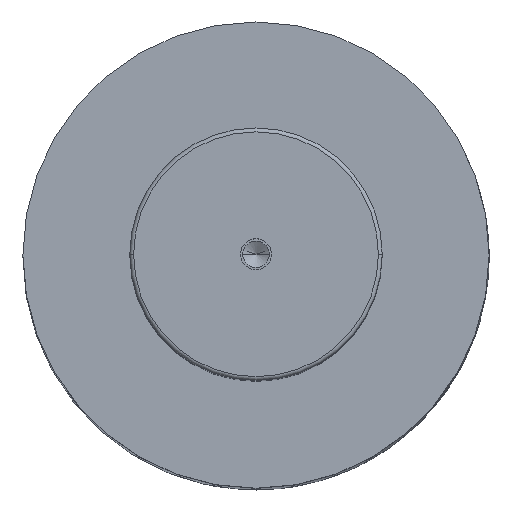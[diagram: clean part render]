
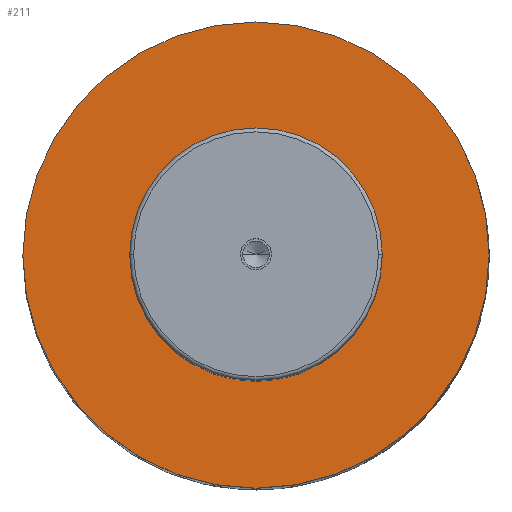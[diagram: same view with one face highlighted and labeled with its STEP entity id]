
A CAD part, top view. The second image highlights one B-rep face of the part: STEP entity #211.
In plain terms, the highlighted planar face has unit normal (0, 0, 1).
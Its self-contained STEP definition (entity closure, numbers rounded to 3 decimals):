
#109=PLANE('',#1266);
#138=FACE_BOUND('',#359,.T.);
#139=FACE_BOUND('',#360,.T.);
#211=ADVANCED_FACE('',(#138,#139),#109,.T.);
#359=EDGE_LOOP('',(#571,#572));
#360=EDGE_LOOP('',(#573,#574));
#451=CIRCLE('',#1260,32.5);
#452=CIRCLE('',#1262,32.5);
#453=CIRCLE('',#1264,60.);
#454=CIRCLE('',#1265,60.);
#571=ORIENTED_EDGE('',*,*,#970,.F.);
#572=ORIENTED_EDGE('',*,*,#971,.F.);
#573=ORIENTED_EDGE('',*,*,#969,.T.);
#574=ORIENTED_EDGE('',*,*,#967,.T.);
#856=VERTEX_POINT('',#1837);
#857=VERTEX_POINT('',#1839);
#858=VERTEX_POINT('',#1845);
#859=VERTEX_POINT('',#1846);
#967=EDGE_CURVE('',#857,#856,#451,.T.);
#969=EDGE_CURVE('',#856,#857,#452,.T.);
#970=EDGE_CURVE('',#858,#859,#453,.T.);
#971=EDGE_CURVE('',#859,#858,#454,.T.);
#1260=AXIS2_PLACEMENT_3D('',#1838,#1456,#1457);
#1262=AXIS2_PLACEMENT_3D('',#1842,#1461,#1462);
#1264=AXIS2_PLACEMENT_3D('',#1844,#1465,#1466);
#1265=AXIS2_PLACEMENT_3D('',#1847,#1467,#1468);
#1266=AXIS2_PLACEMENT_3D('',#1848,#1469,#1470);
#1456=DIRECTION('',(0.,0.,-1.));
#1457=DIRECTION('',(0.,1.,0.));
#1461=DIRECTION('',(0.,0.,-1.));
#1462=DIRECTION('',(0.,-1.,0.));
#1465=DIRECTION('',(0.,0.,-1.));
#1466=DIRECTION('',(0.,1.,0.));
#1467=DIRECTION('',(0.,0.,-1.));
#1468=DIRECTION('',(0.,-1.,0.));
#1469=DIRECTION('',(0.,0.,1.));
#1470=DIRECTION('',(0.,-1.,0.));
#1837=CARTESIAN_POINT('',(-32.5,0.,262.));
#1838=CARTESIAN_POINT('',(0.,0.,262.));
#1839=CARTESIAN_POINT('',(32.5,0.,262.));
#1842=CARTESIAN_POINT('',(0.,0.,262.));
#1844=CARTESIAN_POINT('',(0.,0.,262.));
#1845=CARTESIAN_POINT('',(60.,0.,262.));
#1846=CARTESIAN_POINT('',(-60.,0.,262.));
#1847=CARTESIAN_POINT('',(0.,0.,262.));
#1848=CARTESIAN_POINT('',(0.,0.,262.));
